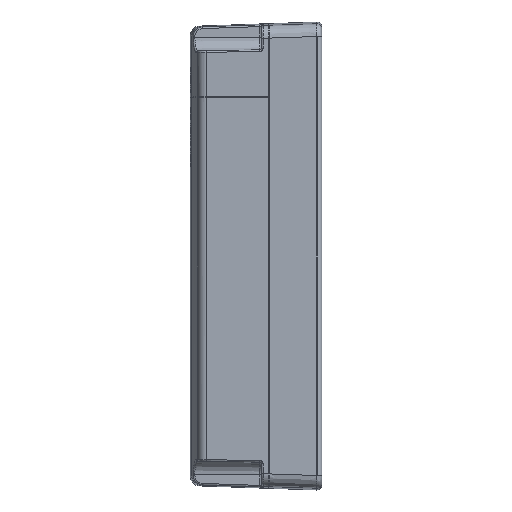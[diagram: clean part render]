
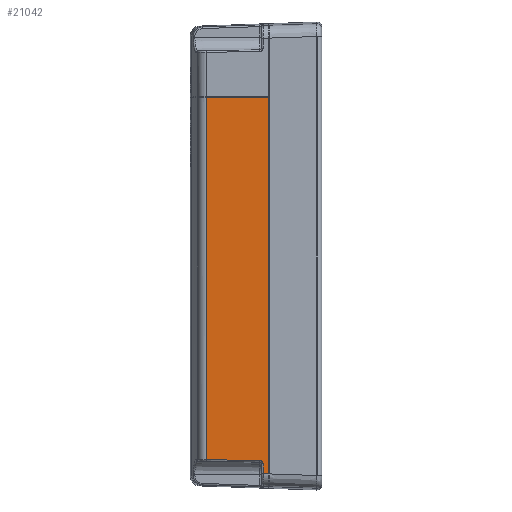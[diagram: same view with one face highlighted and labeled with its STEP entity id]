
A CAD part, left-side view. The second image highlights one B-rep face of the part: STEP entity #21042.
In plain terms, the highlighted planar face has unit normal (-0.999, 0.035, 0).
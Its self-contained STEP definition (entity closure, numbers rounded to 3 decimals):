
#822 = ORIENTED_EDGE ( 'NONE', *, *, #28684, .T. ) ;
#934 = ORIENTED_EDGE ( 'NONE', *, *, #9602, .T. ) ;
#1735 = LINE ( 'NONE', #19785, #21552 ) ;
#2392 = DIRECTION ( 'NONE',  ( 0., 0., -1. ) ) ;
#3130 = AXIS2_PLACEMENT_3D ( 'NONE', #9521, #12024, #29397 ) ;
#3276 = CARTESIAN_POINT ( 'NONE',  ( -88.859, 10.717, -137.326 ) ) ;
#4252 = CARTESIAN_POINT ( 'NONE',  ( -88.797, 12.503, -129.827 ) ) ;
#4824 = VECTOR ( 'NONE', #31902, 1000. ) ;
#4830 = VERTEX_POINT ( 'NONE', #7012 ) ;
#5796 = CARTESIAN_POINT ( 'NONE',  ( -88.9, 9.551, -137.365 ) ) ;
#6670 = ORIENTED_EDGE ( 'NONE', *, *, #10402, .F. ) ;
#7012 = CARTESIAN_POINT ( 'NONE',  ( -88.92, 8.968, 99.9 ) ) ;
#8008 = ORIENTED_EDGE ( 'NONE', *, *, #12031, .T. ) ;
#8363 = EDGE_CURVE ( 'NONE', #4830, #22425, #23959, .T. ) ;
#9467 = VERTEX_POINT ( 'NONE', #13613 ) ;
#9521 = CARTESIAN_POINT ( 'NONE',  ( -88.938, 8.468, 145. ) ) ;
#9602 = EDGE_CURVE ( 'NONE', #9467, #31644, #30770, .T. ) ;
#10402 = EDGE_CURVE ( 'NONE', #4830, #30110, #11449, .T. ) ;
#10412 = CARTESIAN_POINT ( 'NONE',  ( -88.797, 12.503, -130.983 ) ) ;
#10681 = CARTESIAN_POINT ( 'NONE',  ( -88.818, 11.908, -137.286 ) ) ;
#10692 = ORIENTED_EDGE ( 'NONE', *, *, #8363, .T. ) ;
#10715 = VECTOR ( 'NONE', #13320, 1000. ) ;
#10868 = EDGE_CURVE ( 'NONE', #31644, #19689, #1735, .T. ) ;
#11449 = LINE ( 'NONE', #21988, #4824 ) ;
#11650 = EDGE_CURVE ( 'NONE', #12653, #9467, #25819, .T. ) ;
#12024 = DIRECTION ( 'NONE',  ( -0.999, 0.035, 0. ) ) ;
#12031 = EDGE_CURVE ( 'NONE', #22425, #12653, #12964, .T. ) ;
#12291 = CARTESIAN_POINT ( 'NONE',  ( -87.553, 48.124, 145. ) ) ;
#12604 = VECTOR ( 'NONE', #31684, 1000. ) ;
#12653 = VERTEX_POINT ( 'NONE', #20355 ) ;
#12964 = LINE ( 'NONE', #12291, #19569 ) ;
#13320 = DIRECTION ( 'NONE',  ( 0.035, 0.999, 0. ) ) ;
#13613 = CARTESIAN_POINT ( 'NONE',  ( -88.728, 14.468, -128.983 ) ) ;
#14796 = CARTESIAN_POINT ( 'NONE',  ( -87.553, 48.124, 99.9 ) ) ;
#15579 = CARTESIAN_POINT ( 'NONE',  ( -88.797, 12.503, -137.266 ) ) ;
#17253 = ORIENTED_EDGE ( 'NONE', *, *, #10868, .T. ) ;
#18170 = CARTESIAN_POINT ( 'NONE',  ( -88.838, 11.312, -137.306 ) ) ;
#19569 = VECTOR ( 'NONE', #32172, 1000. ) ;
#19689 = VERTEX_POINT ( 'NONE', #24977 ) ;
#19785 = CARTESIAN_POINT ( 'NONE',  ( -88.797, 12.503, -137.234 ) ) ;
#20355 = CARTESIAN_POINT ( 'NONE',  ( -87.553, 48.124, -128.396 ) ) ;
#20647 = CARTESIAN_POINT ( 'NONE',  ( -88.88, 10.134, -137.345 ) ) ;
#21042 = ADVANCED_FACE ( 'NONE', ( #32078 ), #24403, .T. ) ;
#21497 = CARTESIAN_POINT ( 'NONE',  ( -88.728, 14.468, -128.983 ) ) ;
#21552 = VECTOR ( 'NONE', #2392, 1000. ) ;
#21614 = CARTESIAN_POINT ( 'NONE',  ( -88.797, 12.503, -130.983 ) ) ;
#21763 = CARTESIAN_POINT ( 'NONE',  ( -88.729, 14.433, -128.984 ) ) ;
#21988 = CARTESIAN_POINT ( 'NONE',  ( -88.92, 8.968, 145. ) ) ;
#22200 = B_SPLINE_CURVE_WITH_KNOTS ( 'NONE', 3,
 ( #15579, #10681, #18170, #3276, #20647, #5796, #23166 ),
 .UNSPECIFIED., .F., .F.,
 ( 4, 3, 4 ),
 ( 0.001, 0.003, 0.005 ),
 .UNSPECIFIED. ) ;
#22425 = VERTEX_POINT ( 'NONE', #14796 ) ;
#22613 = CARTESIAN_POINT ( 'NONE',  ( -88.92, 8.968, -137.384 ) ) ;
#23166 = CARTESIAN_POINT ( 'NONE',  ( -88.92, 8.968, -137.384 ) ) ;
#23959 = LINE ( 'NONE', #28189, #10715 ) ;
#24044 = CARTESIAN_POINT ( 'NONE',  ( -88.769, 13.313, -129.003 ) ) ;
#24403 = PLANE ( 'NONE',  #3130 ) ;
#24977 = CARTESIAN_POINT ( 'NONE',  ( -88.797, 12.503, -137.266 ) ) ;
#25819 = LINE ( 'NONE', #21763, #12604 ) ;
#27699 = EDGE_LOOP ( 'NONE', ( #6670, #10692, #8008, #28243, #934, #17253, #822 ) ) ;
#28189 = CARTESIAN_POINT ( 'NONE',  ( -87.553, 48.124, 99.9 ) ) ;
#28243 = ORIENTED_EDGE ( 'NONE', *, *, #11650, .T. ) ;
#28684 = EDGE_CURVE ( 'NONE', #19689, #30110, #22200, .T. ) ;
#29397 = DIRECTION ( 'NONE',  ( -0.035, -0.999, 0. ) ) ;
#30110 = VERTEX_POINT ( 'NONE', #22613 ) ;
#30770 =( BOUNDED_CURVE ( )  B_SPLINE_CURVE ( 3, ( #21497, #24044, #4252, #21614 ),
 .UNSPECIFIED., .F., .F. ) 
 B_SPLINE_CURVE_WITH_KNOTS ( ( 4, 4 ),
 ( 1.588, 3.142 ),
 .UNSPECIFIED. ) 
 CURVE ( )  GEOMETRIC_REPRESENTATION_ITEM ( )  RATIONAL_B_SPLINE_CURVE ( ( 1., 0.809, 0.809, 1. ) ) 
 REPRESENTATION_ITEM ( '' )  );
#31644 = VERTEX_POINT ( 'NONE', #10412 ) ;
#31684 = DIRECTION ( 'NONE',  ( -0.035, -0.999, -0.017 ) ) ;
#31902 = DIRECTION ( 'NONE',  ( 0., 0., -1. ) ) ;
#32078 = FACE_OUTER_BOUND ( 'NONE', #27699, .T. ) ;
#32172 = DIRECTION ( 'NONE',  ( 0., 0., -1. ) ) ;
